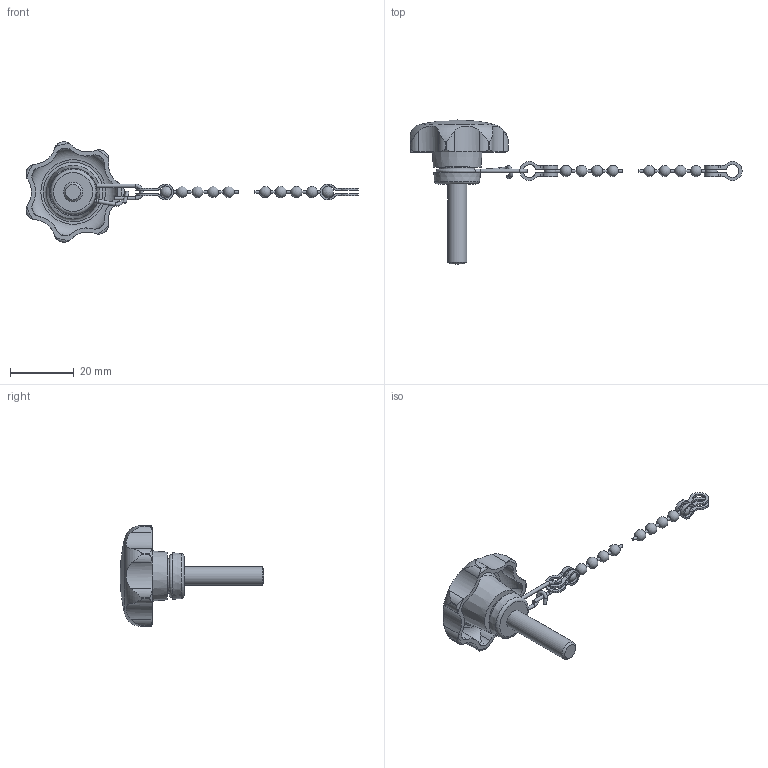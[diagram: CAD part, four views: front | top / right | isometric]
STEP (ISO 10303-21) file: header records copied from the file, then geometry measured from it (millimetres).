
FILE_DESCRIPTION( ( 'STEP AP203' ), '1' );
FILE_NAME( 'C:/Temp/Ganter_Step_05_03_2020/data/2_2/gn_6336_13/gn_6336_13_2/Star knob GN 6336.13-32-M6-25-K.stp', '2020-03-05T12:12:13', ( 'License CC BY-ND 4.0' ), ( 'CADENAS' ), ' ', 'PARTsolutions', ' ' );
FILE_SCHEMA( ( 'CONFIG_CONTROL_DESIGN' ) );
Length unit declared in the file: millimetre
Products named in the file (3): Star knob GN 6336.13-32-M6-25-K; _Star knob GN 6336.13-32-M6-25-K 6; _Star knob GN 111.5-200-14 k2
Assembly tree (2 placements, depth 2):
  Star knob GN 6336.13-32-M6-25-K
    _Star knob GN 6336.13-32-M6-25-K 6
    _Star knob GN 111.5-200-14 k2
Bounding box: 103.76 x 45 x 31.36 mm (x, y, z)
Volume: 6719 mm3; surface area: 4809.8 mm2
Topology: 2 solids, 2 shells, 169 faces, 489 edges, 316 vertices
Faces by surface type: cylinder 103, plane 26, torus 18, sphere 11, cone 11
Full cylindrical faces by diameter (mm): 0.9 x10, 1.1 x4, 1.11 x1, 6 x1, 10.9 x1
Entity records: 6303 total; most frequent: CARTESIAN_POINT 2059, DIRECTION 865, ORIENTED_EDGE 846, EDGE_CURVE 423, AXIS2_PLACEMENT_3D 373, VERTEX_POINT 301, EDGE_LOOP 219, FACE_OUTER_BOUND 204
